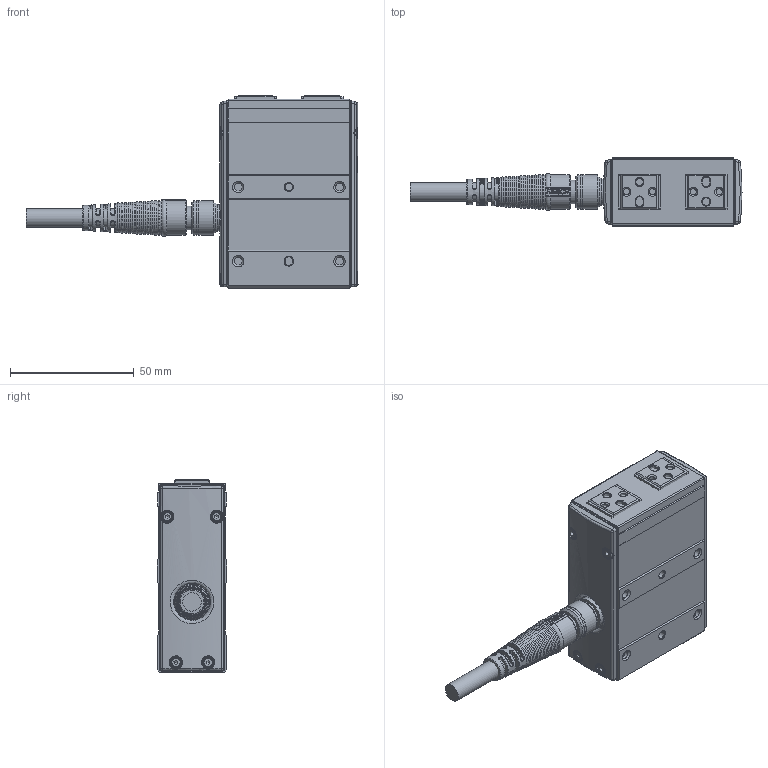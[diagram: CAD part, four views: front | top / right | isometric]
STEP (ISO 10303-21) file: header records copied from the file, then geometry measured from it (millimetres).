
FILE_DESCRIPTION(/* description */ (''),/* implementation_level */ '2;1');
FILE_NAME(/* name */ 'D:\2025.02.25 帶電匯整給泊舟\CHZ2-S10-180.stp',/* time_stamp */ '2025-02-26T10:13:48+08:00',/* author */ ('T10033'),/* organization */ (''),/* preprocessor_version */ 'ST-DEVELOPER v18.1',/* originating_system */ 'Autodesk Inventor 2020',/* authorisation */ '');
FILE_SCHEMA (('CONFIG_CONTROL_DESIGN'));
Products named in the file (6): CHZ2-S10_已確認; 11003-001130_珠溝研磨(單顆); 12008-000058; 慶陞金屬頭; M12-14PIN 線端180度接頭-05中繼線; 7 32T634TSSE3R_Shrinkwrap_1
Assembly tree (9 placements, depth 2):
  CHZ2-S10_已確認
    11003-001130_珠溝研磨(單顆)  x2
    12008-000058  x4
    慶陞金屬頭
    M12-14PIN 線端180度接頭-05中繼線
    7 32T634TSSE3R_Shrinkwrap_1
Bounding box: 134.4 x 28 x 78 mm (x, y, z)
Volume: 126261.8 mm3; surface area: 38601.7 mm2
Topology: 38 solids, 38 shells, 2052 faces, 5629 edges, 3737 vertices
Faces by surface type: plane 997, cylinder 449, cone 348, bspline 175, torus 63, sphere 20
Full cylindrical faces by diameter (mm): 0.6 x14, 0.65 x14, 0.8 x2, 1 x18, 1.567 x8, 2 x10, 2.013 x8, 2.459 x6, 3 x7, 3.242 x12, 3.8 x16, 4 x2, 5.5 x4, 6.647 x2, 7.5 x1, 8 x3, 8.9 x1, 9.5 x2, 9.6 x1, 10.5 x2, 11 x1, 11.2 x5, 12 x1, 13 x1, 13.8 x1, 14 x2
Entity records: 78345 total; most frequent: CARTESIAN_POINT 26534, DIRECTION 10566, ORIENTED_EDGE 10522, EDGE_CURVE 5261, AXIS2_PLACEMENT_3D 4078, VERTEX_POINT 3511, LINE 2410, VECTOR 2410
